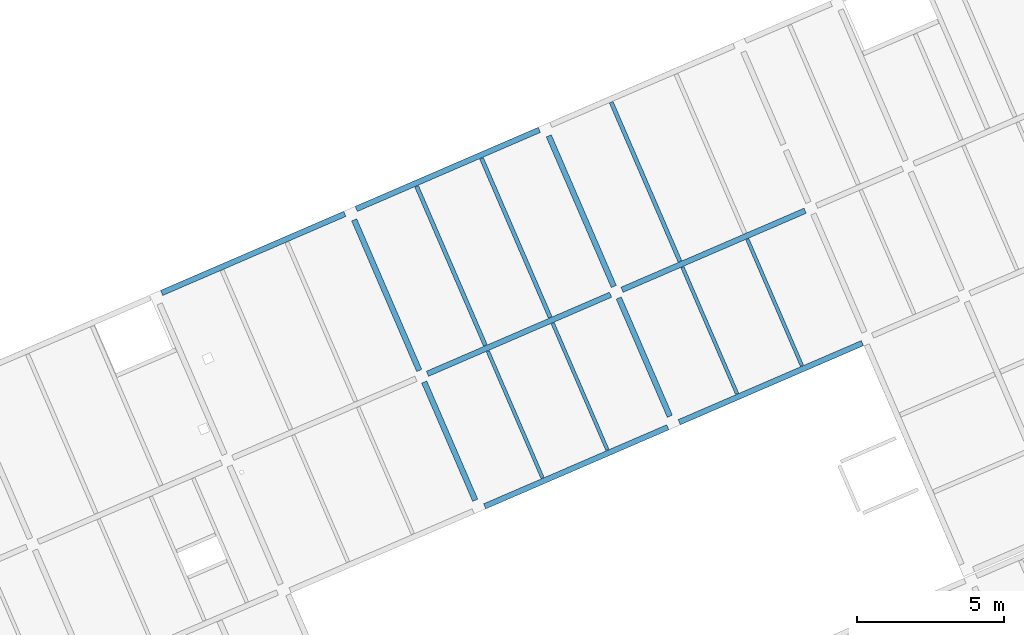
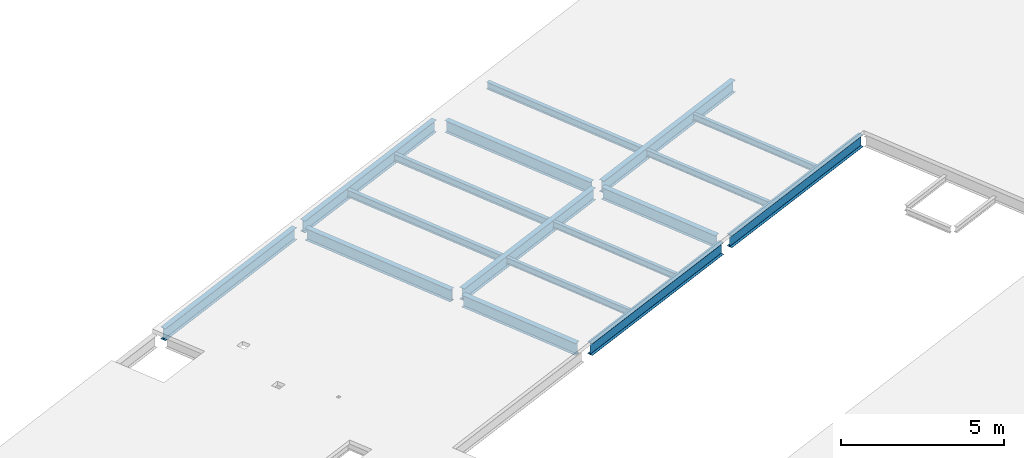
# One storey, part 10 of 15: 17 beams.
"""IFC4 building model written with IfcOpenShell, lengths in metres."""

from ifc_helpers import new_model, entity, si_unit, converted_unit, derived_unit, direction, frame, origin, place, context, subcontext, project, spatial, line, arc, indexed_curve, outline, extrude, source, transform, mapped, material, type_object, type_shapes, element, save


model = new_model("IFC4")

# Units and contexts
model_context = context("Model", 3, precision=1e-05, world=origin(), true_north=direction((6.12323399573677e-17, 1.0)))
body_context = subcontext(model_context, "Body", "Model", "MODEL_VIEW")
ifc_project = project(units=[si_unit("LENGTHUNIT", "METRE"), si_unit("AREAUNIT", "SQUARE_METRE"), si_unit("VOLUMEUNIT", "CUBIC_METRE"), converted_unit("PLANEANGLEUNIT", "DEGREE", entity("IfcPlaneAngleMeasure", 0.0174532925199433), si_unit("PLANEANGLEUNIT", "RADIAN"), dimensions=[0, 0, 0, 0, 0, 0, 0]), si_unit("MASSUNIT", "GRAM", prefix="KILO"), derived_unit("MOMENTOFINERTIAUNIT", [(si_unit("LENGTHUNIT", "METRE"), 4)]), derived_unit("LINEARFORCEUNIT", [(si_unit("MASSUNIT", "GRAM", prefix="KILO"), 1), (si_unit("TIMEUNIT", "SECOND"), -2)]), derived_unit("WARPINGCONSTANTUNIT", [(si_unit("LENGTHUNIT", "METRE"), 6)]), derived_unit("THERMALTRANSMITTANCEUNIT", [(si_unit("MASSUNIT", "GRAM", prefix="KILO"), 1), (si_unit("THERMODYNAMICTEMPERATUREUNIT", "KELVIN"), -1), (si_unit("TIMEUNIT", "SECOND"), -3)]), derived_unit("USERDEFINED", [(si_unit("MASSUNIT", "GRAM", prefix="KILO"), 1), (si_unit("TIMEUNIT", "SECOND"), -2), (si_unit("THERMODYNAMICTEMPERATUREUNIT", "KELVIN"), -1)]), derived_unit("THERMALRESISTANCEUNIT", [(si_unit("MASSUNIT", "GRAM", prefix="KILO"), -1), (si_unit("TIMEUNIT", "SECOND"), 3), (si_unit("THERMODYNAMICTEMPERATUREUNIT", "KELVIN"), 1)])], contexts=[model_context])

# Site, building, storey
site_placement = place(None, origin())
site = spatial("IfcSite", under=ifc_project, at=site_placement, Name="Default", CompositionType="ELEMENT")
building_placement = place(site_placement, frame((12.6613425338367, -82.5732315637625, 317.15), z_axis=(0.0, 0.0, 1.0), x_axis=(-0.396377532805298, 0.918087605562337, 0.0)))
building = spatial("IfcBuilding", under=site, at=building_placement, Name="CESFAM Coyhaique", CompositionType="ELEMENT")
storey_placement = place(building_placement, frame((0.0, 0.0, 8.45000000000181)))
storey = spatial("IfcBuildingStorey", under=building, at=storey_placement, Name="Nivel 3", CompositionType="ELEMENT", Elevation=8.45000000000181)

# Beams
ifc_material = material(Name="Steel, 45-345", Category="Metal")
beam_type_1 = type_object("IfcBeamType", Name="M_W Shapes:W450X190mm", PredefinedType="BEAM", material=ifc_material)
shared_shape_1 = source(origin(), body_context, "Body", "SweptSolid", [
    extrude(outline(indexed_curve([(-0.0950000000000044, -0.225000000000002), (0.0949999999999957, -0.225000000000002), (0.0950000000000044, -0.215350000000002), (0.0105699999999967, -0.215350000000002), (0.00516063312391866, -0.213109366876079), (0.0029200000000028, -0.207700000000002), (0.00291999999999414, 0.207699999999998), (0.00516063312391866, 0.213109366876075), (0.0105699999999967, 0.215349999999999), (0.0949999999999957, 0.215349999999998), (0.0949999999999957, 0.224999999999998), (-0.0950000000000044, 0.224999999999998), (-0.0950000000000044, 0.215349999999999), (-0.0105700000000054, 0.215349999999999), (-0.00516063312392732, 0.213109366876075), (-0.0029200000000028, 0.207699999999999), (-0.0029200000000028, -0.207700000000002), (-0.00516063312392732, -0.213109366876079), (-0.0105699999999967, -0.215350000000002), (-0.0950000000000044, -0.215350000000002)], segments=[line(1, 2, 3, 4), arc(4, 5, 6), line(6, 7), arc(7, 8, 9), line(9, 10, 11, 12, 13, 14), arc(14, 15, 16), line(16, 17), arc(17, 18, 19), line(19, 20, 1)], self_intersect=False)), frame((54.6688534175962, 3.0155504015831, 8.07500000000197), z_axis=(0.0, 1.0, 0.0), x_axis=(-1.0, 0.0, 0.0)), (0.0, 0.0, 1.0), 6.7746),
])
type_shapes(beam_type_1, [shared_shape_1])
beam_1_placement = place(storey_placement, frame((0.0, 0.0, -8.45000000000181)))
element("IfcBeam", 1, at=beam_1_placement, inside=storey, type_object=beam_type_1, Name="M_W Shapes:W450X190mm", ObjectType="M_W Shapes:W450X190mm", PredefinedType="BEAM", context=body_context, shape_type="MappedRepresentation", body=[
    mapped(shared_shape_1, transform((0.0, 0.0, 0.0), scale=1.0)),
])
beam_type_2 = type_object("IfcBeamType", Name="M_W Shapes:W450X190mm", PredefinedType="BEAM", material=ifc_material)
shared_shape_2 = source(origin(), body_context, "Body", "SweptSolid", [
    extrude(outline(indexed_curve([(-0.0950000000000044, -0.225000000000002), (0.0949999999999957, -0.225000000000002), (0.0950000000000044, -0.215350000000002), (0.0105699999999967, -0.215350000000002), (0.00516063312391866, -0.213109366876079), (0.0029200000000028, -0.207700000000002), (0.00291999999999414, 0.207699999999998), (0.00516063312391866, 0.213109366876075), (0.0105699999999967, 0.215349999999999), (0.0949999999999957, 0.215349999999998), (0.0949999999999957, 0.224999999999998), (-0.0950000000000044, 0.224999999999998), (-0.0950000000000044, 0.215349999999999), (-0.0105700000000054, 0.215349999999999), (-0.00516063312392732, 0.213109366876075), (-0.0029200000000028, 0.207699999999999), (-0.0029200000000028, -0.207700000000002), (-0.00516063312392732, -0.213109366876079), (-0.0105699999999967, -0.215350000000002), (-0.0950000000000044, -0.215350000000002)], segments=[line(1, 2, 3, 4), arc(4, 5, 6), line(6, 7), arc(7, 8, 9), line(9, 10, 11, 12, 13, 14), arc(14, 15, 16), line(16, 17), arc(17, 18, 19), line(19, 20, 1)], self_intersect=False)), frame((43.6638534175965, -4.18444959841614, 8.07500000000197), z_axis=(0.0, 1.0, 0.0), x_axis=(-1.0, 0.0, 0.0)), (0.0, 0.0, 1.0), 6.7746),
])
type_shapes(beam_type_2, [shared_shape_2])
beam_2_placement = place(storey_placement, frame((0.0, 0.0, -8.45000000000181)))
element("IfcBeam", 2, at=beam_2_placement, inside=storey, type_object=beam_type_2, Name="M_W Shapes:W450X190mm", ObjectType="M_W Shapes:W450X190mm", PredefinedType="BEAM", context=body_context, shape_type="MappedRepresentation", body=[
    mapped(shared_shape_2, transform((0.0, 0.0, 0.0), scale=1.0)),
])
beam_type_3 = type_object("IfcBeamType", Name="M_W Shapes:W450X190mm", PredefinedType="BEAM", material=ifc_material)
shared_shape_3 = source(origin(), body_context, "Body", "SweptSolid", [
    extrude(outline(indexed_curve([(-0.0949999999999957, -0.225000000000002), (0.0950000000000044, -0.225000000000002), (0.0950000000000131, -0.215350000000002), (0.0105700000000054, -0.215350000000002), (0.00516063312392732, -0.213109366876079), (0.00292000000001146, -0.207700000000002), (0.0029200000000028, 0.207699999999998), (0.00516063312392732, 0.213109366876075), (0.0105700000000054, 0.215349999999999), (0.0950000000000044, 0.215349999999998), (0.0950000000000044, 0.224999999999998), (-0.0949999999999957, 0.224999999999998), (-0.0949999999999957, 0.215349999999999), (-0.0105699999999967, 0.215349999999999), (-0.00516063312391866, 0.213109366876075), (-0.00291999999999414, 0.207699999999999), (-0.00291999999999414, -0.207700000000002), (-0.00516063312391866, -0.213109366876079), (-0.0105699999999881, -0.215350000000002), (-0.0949999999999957, -0.215350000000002)], segments=[line(1, 2, 3, 4), arc(4, 5, 6), line(6, 7), arc(7, 8, 9), line(9, 10, 11, 12, 13, 14), arc(14, 15, 16), line(16, 17), arc(17, 18, 19), line(19, 20, 1)], self_intersect=False)), frame((43.6688534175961, -11.384449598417, 8.07500000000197), z_axis=(0.0, 1.0, 0.0), x_axis=(-1.0, 0.0, 0.0)), (0.0, 0.0, 1.0), 6.7746),
])
type_shapes(beam_type_3, [shared_shape_3])
beam_3_placement = place(storey_placement, frame((0.0, 0.0, -8.45000000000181)))
element("IfcBeam", 3, at=beam_3_placement, inside=storey, type_object=beam_type_3, Name="M_W Shapes:W450X190mm", ObjectType="M_W Shapes:W450X190mm", PredefinedType="BEAM", context=body_context, shape_type="MappedRepresentation", body=[
    mapped(shared_shape_3, transform((0.0, 0.0, 0.0), scale=1.0)),
])
beam_type_4 = type_object("IfcBeamType", Name="M_W Shapes:W450X190mm", PredefinedType="BEAM", material=ifc_material)
shared_shape_4 = source(origin(), body_context, "Body", "SweptSolid", [
    extrude(outline(indexed_curve([(-0.0950000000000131, -0.225000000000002), (0.0949999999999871, -0.225000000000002), (0.0949999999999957, -0.215350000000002), (0.0105699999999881, -0.215350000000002), (0.00516063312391, -0.213109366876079), (0.00291999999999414, -0.207700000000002), (0.00291999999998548, 0.207699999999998), (0.00516063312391, 0.213109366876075), (0.0105699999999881, 0.215349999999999), (0.0949999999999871, 0.215349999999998), (0.0949999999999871, 0.224999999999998), (-0.0950000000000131, 0.224999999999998), (-0.0950000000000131, 0.215349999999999), (-0.0105700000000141, 0.215349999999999), (-0.00516063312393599, 0.213109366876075), (-0.00292000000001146, 0.207699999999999), (-0.00292000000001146, -0.207700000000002), (-0.00516063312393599, -0.213109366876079), (-0.0105700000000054, -0.215350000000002), (-0.0950000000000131, -0.215350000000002)], segments=[line(1, 2, 3, 4), arc(4, 5, 6), line(6, 7), arc(7, 8, 9), line(9, 10, 11, 12, 13, 14), arc(14, 15, 16), line(16, 17), arc(17, 18, 19), line(19, 20, 1)], self_intersect=False)), frame((48.5688534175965, -4.18444959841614, 8.07500000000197), z_axis=(0.0, 1.0, 0.0), x_axis=(-1.0, 0.0, 0.0)), (0.0, 0.0, 1.0), 6.7746),
])
type_shapes(beam_type_4, [shared_shape_4])
beam_4_placement = place(storey_placement, frame((0.0, 0.0, -8.45000000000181)))
element("IfcBeam", 4, at=beam_4_placement, inside=storey, type_object=beam_type_4, Name="M_W Shapes:W450X190mm", ObjectType="M_W Shapes:W450X190mm", PredefinedType="BEAM", context=body_context, shape_type="MappedRepresentation", body=[
    mapped(shared_shape_4, transform((0.0, 0.0, 0.0), scale=1.0)),
])
beam_type_5 = type_object("IfcBeamType", Name="M_W Shapes:W450X190mm", PredefinedType="BEAM", material=ifc_material)
shared_shape_5 = source(origin(), body_context, "Body", "SweptSolid", [
    extrude(outline(indexed_curve([(-0.0950000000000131, -0.225000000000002), (0.0949999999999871, -0.225000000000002), (0.0949999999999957, -0.215350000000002), (0.0105699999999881, -0.215350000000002), (0.00516063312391, -0.213109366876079), (0.00291999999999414, -0.207700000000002), (0.00291999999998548, 0.207699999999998), (0.00516063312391, 0.213109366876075), (0.0105699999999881, 0.215349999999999), (0.0949999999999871, 0.215349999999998), (0.0949999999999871, 0.224999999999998), (-0.0950000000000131, 0.224999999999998), (-0.0950000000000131, 0.215349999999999), (-0.0105700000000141, 0.215349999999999), (-0.00516063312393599, 0.213109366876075), (-0.00292000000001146, 0.207699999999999), (-0.00292000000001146, -0.207700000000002), (-0.00516063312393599, -0.213109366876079), (-0.0105700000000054, -0.215350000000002), (-0.0950000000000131, -0.215350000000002)], segments=[line(1, 2, 3, 4), arc(4, 5, 6), line(6, 7), arc(7, 8, 9), line(9, 10, 11, 12, 13, 14), arc(14, 15, 16), line(16, 17), arc(17, 18, 19), line(19, 20, 1)], self_intersect=False)), frame((48.5688534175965, -11.384449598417, 8.07500000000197), z_axis=(0.0, 1.0, 0.0), x_axis=(-1.0, 0.0, 0.0)), (0.0, 0.0, 1.0), 6.7746),
])
type_shapes(beam_type_5, [shared_shape_5])
beam_5_placement = place(storey_placement, frame((0.0, 0.0, -8.45000000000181)))
element("IfcBeam", 5, at=beam_5_placement, inside=storey, type_object=beam_type_5, Name="M_W Shapes:W450X190mm", ObjectType="M_W Shapes:W450X190mm", PredefinedType="BEAM", context=body_context, shape_type="MappedRepresentation", body=[
    mapped(shared_shape_5, transform((0.0, 0.0, 0.0), scale=1.0)),
])
beam_type_6 = type_object("IfcBeamType", Name="M_W Shapes:W450X190mm", PredefinedType="BEAM", material=ifc_material)
shared_shape_6 = source(origin(), body_context, "Body", "SweptSolid", [
    extrude(outline(indexed_curve([(-0.0950000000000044, -0.225000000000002), (0.0949999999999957, -0.225000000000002), (0.0950000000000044, -0.215350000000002), (0.0105699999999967, -0.215350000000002), (0.00516063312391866, -0.213109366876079), (0.0029200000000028, -0.207700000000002), (0.00291999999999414, 0.207699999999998), (0.00516063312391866, 0.213109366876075), (0.0105699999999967, 0.215349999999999), (0.0949999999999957, 0.215349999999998), (0.0949999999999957, 0.224999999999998), (-0.0950000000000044, 0.224999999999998), (-0.0950000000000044, 0.215349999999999), (-0.0105700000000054, 0.215349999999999), (-0.00516063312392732, 0.213109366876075), (-0.0029200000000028, 0.207699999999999), (-0.0029200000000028, -0.207700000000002), (-0.00516063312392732, -0.213109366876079), (-0.0105699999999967, -0.215350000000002), (-0.0950000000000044, -0.215350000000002)], segments=[line(1, 2, 3, 4), arc(4, 5, 6), line(6, 7), arc(7, 8, 9), line(9, 10, 11, 12, 13, 14), arc(14, 15, 16), line(16, 17), arc(17, 18, 19), line(19, 20, 1)], self_intersect=False)), frame((54.6688534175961, -4.18444959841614, 8.07500000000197), z_axis=(0.0, 1.0, 0.0), x_axis=(-1.0, 0.0, 0.0)), (0.0, 0.0, 1.0), 6.7746),
])
type_shapes(beam_type_6, [shared_shape_6])
beam_6_placement = place(storey_placement, frame((0.0, 0.0, -8.45000000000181)))
element("IfcBeam", 6, at=beam_6_placement, inside=storey, type_object=beam_type_6, Name="M_W Shapes:W450X190mm", ObjectType="M_W Shapes:W450X190mm", PredefinedType="BEAM", context=body_context, shape_type="MappedRepresentation", body=[
    mapped(shared_shape_6, transform((0.0, 0.0, 0.0), scale=1.0)),
])
beam_type_7 = type_object("IfcBeamType", Name="M_W Shapes:W450X190mm", PredefinedType="BEAM", material=ifc_material)
shared_shape_7 = source(origin(), body_context, "Body", "SweptSolid", [
    extrude(outline(indexed_curve([(-0.224999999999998, -0.0950000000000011), (-0.215349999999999, -0.0950000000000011), (-0.215349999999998, -0.0105700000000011), (-0.213109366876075, -0.00516063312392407), (-0.207699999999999, -0.00292000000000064), (0.207700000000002, -0.00292000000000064), (0.213109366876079, -0.00516063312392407), (0.215350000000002, -0.0105700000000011), (0.215350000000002, -0.0950000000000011), (0.225000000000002, -0.0950000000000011), (0.225000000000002, 0.0949999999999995), (0.215350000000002, 0.0949999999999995), (0.215350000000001, 0.0105699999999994), (0.213109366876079, 0.00516063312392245), (0.207700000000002, 0.00291999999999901), (-0.207699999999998, 0.00291999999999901), (-0.213109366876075, 0.00516063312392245), (-0.215349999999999, 0.0105699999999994), (-0.215349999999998, 0.0949999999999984), (-0.224999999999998, 0.094999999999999)], segments=[line(1, 2, 3), arc(3, 4, 5), line(5, 6), arc(6, 7, 8), line(8, 9, 10, 11, 12, 13), arc(13, 14, 15), line(15, 16), arc(16, 17, 18), line(18, 19, 20, 1)], self_intersect=False)), frame((43.9815534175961, -4.39714959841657, 8.07500000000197), z_axis=(1.0, 0.0, 0.0), x_axis=(0.0, 0.0, -1.0)), (0.0, 0.0, 1.0), 4.3746),
])
type_shapes(beam_type_7, [shared_shape_7])
beam_7_placement = place(storey_placement, frame((0.0, 0.0, -8.45000000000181)))
element("IfcBeam", 7, at=beam_7_placement, inside=storey, type_object=beam_type_7, Name="M_W Shapes:W450X190mm", ObjectType="M_W Shapes:W450X190mm", PredefinedType="BEAM", context=body_context, shape_type="MappedRepresentation", body=[
    mapped(shared_shape_7, transform((0.0, 0.0, 0.0), scale=1.0)),
])
beam_type_8 = type_object("IfcBeamType", Name="M_W Shapes:W450X190mm", PredefinedType="BEAM", material=ifc_material)
shared_shape_8 = source(origin(), body_context, "Body", "SweptSolid", [
    extrude(outline(indexed_curve([(-0.224999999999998, -0.0949999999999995), (-0.215349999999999, -0.0949999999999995), (-0.215349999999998, -0.0105699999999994), (-0.213109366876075, -0.00516063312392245), (-0.207699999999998, -0.00291999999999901), (0.207700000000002, -0.00291999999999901), (0.213109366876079, -0.00516063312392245), (0.215350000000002, -0.0105699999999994), (0.215350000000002, -0.0949999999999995), (0.225000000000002, -0.0949999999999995), (0.225000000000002, 0.0950000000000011), (0.215350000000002, 0.0950000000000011), (0.215350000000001, 0.0105700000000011), (0.213109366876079, 0.00516063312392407), (0.207700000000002, 0.00292000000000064), (-0.207699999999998, 0.00292000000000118), (-0.213109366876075, 0.00516063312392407), (-0.215349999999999, 0.0105700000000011), (-0.215349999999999, 0.0950000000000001), (-0.224999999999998, 0.0950000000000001)], segments=[line(1, 2, 3), arc(3, 4, 5), line(5, 6), arc(6, 7, 8), line(8, 9, 10, 11, 12, 13), arc(13, 14, 15), line(15, 16), arc(16, 17, 18), line(18, 19, 20, 1)], self_intersect=False)), frame((48.7815534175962, -4.39714959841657, 8.07500000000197), z_axis=(1.0, 0.0, 0.0), x_axis=(0.0, 0.0, -1.0)), (0.0, 0.0, 1.0), 5.5746),
])
type_shapes(beam_type_8, [shared_shape_8])
beam_8_placement = place(storey_placement, frame((0.0, 0.0, -8.45000000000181)))
element("IfcBeam", 8, at=beam_8_placement, inside=storey, type_object=beam_type_8, Name="M_W Shapes:W450X190mm", ObjectType="M_W Shapes:W450X190mm", PredefinedType="BEAM", context=body_context, shape_type="MappedRepresentation", body=[
    mapped(shared_shape_8, transform((0.0, 0.0, 0.0), scale=1.0)),
])
beam_type_9 = type_object("IfcBeamType", Name="M_W Shapes:W450X190mm", PredefinedType="BEAM", material=ifc_material)
shared_shape_9 = source(origin(), body_context, "Body", "SweptSolid", [
    extrude(outline(indexed_curve([(-0.224999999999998, -0.0950000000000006), (-0.215349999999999, -0.0950000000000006), (-0.215349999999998, -0.0105700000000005), (-0.213109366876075, -0.00516063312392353), (-0.207699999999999, -0.00292000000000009), (0.207700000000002, -0.00292000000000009), (0.213109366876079, -0.00516063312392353), (0.215350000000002, -0.0105700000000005), (0.215350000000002, -0.0950000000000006), (0.225000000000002, -0.0950000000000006), (0.225000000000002, 0.0950000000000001), (0.215350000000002, 0.0950000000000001), (0.215350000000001, 0.01057), (0.213109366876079, 0.00516063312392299), (0.207700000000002, 0.00291999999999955), (-0.207699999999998, 0.00291999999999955), (-0.213109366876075, 0.00516063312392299), (-0.215349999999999, 0.01057), (-0.215349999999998, 0.094999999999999), (-0.224999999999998, 0.0949999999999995)], segments=[line(1, 2, 3), arc(3, 4, 5), line(5, 6), arc(6, 7, 8), line(8, 9, 10, 11, 12, 13), arc(13, 14, 15), line(15, 16), arc(16, 17, 18), line(18, 19, 20, 1)], self_intersect=False)), frame((43.9815534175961, 2.8028504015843, 8.07500000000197), z_axis=(1.0, 0.0, 0.0), x_axis=(0.0, 0.0, -1.0)), (0.0, 0.0, 1.0), 4.3746),
])
type_shapes(beam_type_9, [shared_shape_9])
beam_9_placement = place(storey_placement, frame((0.0, 0.0, -8.45000000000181)))
element("IfcBeam", 9, at=beam_9_placement, inside=storey, type_object=beam_type_9, Name="M_W Shapes:W450X190mm", ObjectType="M_W Shapes:W450X190mm", PredefinedType="BEAM", context=body_context, shape_type="MappedRepresentation", body=[
    mapped(shared_shape_9, transform((0.0, 0.0, 0.0), scale=1.0)),
])
beam_type_10 = type_object("IfcBeamType", Name="M_W Shapes:W450X190mm", PredefinedType="BEAM", material=ifc_material)
shared_shape_10 = source(origin(), body_context, "Body", "SweptSolid", [
    extrude(outline(indexed_curve([(-0.224999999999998, -0.0950000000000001), (-0.215349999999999, -0.0950000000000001), (-0.215349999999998, -0.01057), (-0.213109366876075, -0.00516063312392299), (-0.207699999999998, -0.00291999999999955), (0.207700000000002, -0.00291999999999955), (0.213109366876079, -0.00516063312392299), (0.215350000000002, -0.01057), (0.215350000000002, -0.0950000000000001), (0.225000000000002, -0.0950000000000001), (0.225000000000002, 0.0950000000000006), (0.215350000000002, 0.0950000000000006), (0.215350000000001, 0.0105700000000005), (0.213109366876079, 0.00516063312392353), (0.207700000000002, 0.00292000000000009), (-0.207699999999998, 0.00292000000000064), (-0.213109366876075, 0.00516063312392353), (-0.215349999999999, 0.0105700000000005), (-0.215349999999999, 0.0949999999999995), (-0.224999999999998, 0.0949999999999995)], segments=[line(1, 2, 3), arc(3, 4, 5), line(5, 6), arc(6, 7, 8), line(8, 9, 10, 11, 12, 13), arc(13, 14, 15), line(15, 16), arc(16, 17, 18), line(18, 19, 20, 1)], self_intersect=False)), frame((48.7815534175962, 2.8028504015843, 8.07500000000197), z_axis=(1.0, 0.0, 0.0), x_axis=(0.0, 0.0, -1.0)), (0.0, 0.0, 1.0), 5.5746),
])
type_shapes(beam_type_10, [shared_shape_10])
beam_10_placement = place(storey_placement, frame((0.0, 0.0, -8.45000000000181)))
element("IfcBeam", 10, at=beam_10_placement, inside=storey, type_object=beam_type_10, Name="M_W Shapes:W450X190mm", ObjectType="M_W Shapes:W450X190mm", PredefinedType="BEAM", context=body_context, shape_type="MappedRepresentation", body=[
    mapped(shared_shape_10, transform((0.0, 0.0, 0.0), scale=1.0)),
])
beam_type_11 = type_object("IfcBeamType", Name="M_W Shapes:W240X120mm", PredefinedType="BEAM", material=ifc_material)
shared_shape_11 = source(origin(), body_context, "Body", "SweptSolid", [
    extrude(outline(indexed_curve([(-0.12, -0.0599999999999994), (-0.110350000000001, -0.0599999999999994), (-0.110350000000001, -0.0105699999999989), (-0.108109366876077, -0.00516063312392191), (-0.1027, -0.00291999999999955), (0.102699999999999, -0.00291999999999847), (0.108109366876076, -0.00516063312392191), (0.110349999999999, -0.0105699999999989), (0.110349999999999, -0.0599999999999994), (0.12, -0.0599999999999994), (0.12, 0.0600000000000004), (0.110349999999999, 0.0600000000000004), (0.11035, 0.0105700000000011), (0.108109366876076, 0.00516063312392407), (0.102699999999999, 0.00292000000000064), (-0.1027, 0.00292000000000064), (-0.108109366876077, 0.00516063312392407), (-0.110350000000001, 0.0105700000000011), (-0.110350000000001, 0.0600000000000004), (-0.12, 0.0600000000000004)], segments=[line(1, 2, 3), arc(3, 4, 5), line(5, 6), arc(6, 7, 8), line(8, 9, 10, 11, 12, 13), arc(13, 14, 15), line(15, 16), arc(16, 17, 18), line(18, 19, 20, 1)], self_intersect=False)), frame((43.7765534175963, -9.1972701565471, 8.18000000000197), z_axis=(1.0, 0.0, 0.0), x_axis=(0.0, 0.0, -1.0)), (0.0, 0.0, 1.0), 4.6846),
])
type_shapes(beam_type_11, [shared_shape_11])
beam_11_placement = place(storey_placement, frame((0.0, 0.0, -8.45000000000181)))
element("IfcBeam", 11, at=beam_11_placement, inside=storey, type_object=beam_type_11, Name="M_W Shapes:W240X120mm", ObjectType="M_W Shapes:W240X120mm", PredefinedType="BEAM", context=body_context, shape_type="MappedRepresentation", body=[
    mapped(shared_shape_11, transform((0.0, 0.0, 0.0), scale=1.0)),
])
beam_type_12 = type_object("IfcBeamType", Name="M_W Shapes:W240X120mm", PredefinedType="BEAM", material=ifc_material)
shared_shape_12 = source(origin(), body_context, "Body", "SweptSolid", [
    extrude(outline(indexed_curve([(-0.12, -0.0599999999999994), (-0.110350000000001, -0.0599999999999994), (-0.110350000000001, -0.0105699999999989), (-0.108109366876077, -0.00516063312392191), (-0.1027, -0.00291999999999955), (0.102699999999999, -0.00291999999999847), (0.108109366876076, -0.00516063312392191), (0.110349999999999, -0.0105699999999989), (0.110349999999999, -0.0599999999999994), (0.12, -0.0599999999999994), (0.12, 0.0600000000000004), (0.110349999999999, 0.0600000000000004), (0.11035, 0.0105700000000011), (0.108109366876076, 0.00516063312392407), (0.102699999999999, 0.00292000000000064), (-0.1027, 0.00292000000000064), (-0.108109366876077, 0.00516063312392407), (-0.110350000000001, 0.0105700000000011), (-0.110350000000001, 0.0600000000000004), (-0.12, 0.0600000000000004)], segments=[line(1, 2, 3), arc(3, 4, 5), line(5, 6), arc(6, 7, 8), line(8, 9, 10, 11, 12, 13), arc(13, 14, 15), line(15, 16), arc(16, 17, 18), line(18, 19, 20, 1)], self_intersect=False)), frame((43.7765534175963, -6.79727015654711, 8.18000000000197), z_axis=(1.0, 0.0, 0.0), x_axis=(0.0, 0.0, -1.0)), (0.0, 0.0, 1.0), 4.6846),
])
type_shapes(beam_type_12, [shared_shape_12])
beam_12_placement = place(storey_placement, frame((0.0, 0.0, -8.45000000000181)))
element("IfcBeam", 12, at=beam_12_placement, inside=storey, type_object=beam_type_12, Name="M_W Shapes:W240X120mm", ObjectType="M_W Shapes:W240X120mm", PredefinedType="BEAM", context=body_context, shape_type="MappedRepresentation", body=[
    mapped(shared_shape_12, transform((0.0, 0.0, 0.0), scale=1.0)),
])
beam_type_13 = type_object("IfcBeamType", Name="M_W Shapes:W270X140mm", PredefinedType="BEAM", material=ifc_material)
shared_shape_13 = source(origin(), body_context, "Body", "SweptSolid", [
    extrude(outline(indexed_curve([(-0.135, -0.0699999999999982), (-0.125350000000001, -0.0699999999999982), (-0.125350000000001, -0.0105699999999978), (-0.123109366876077, -0.00516063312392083), (-0.1177, -0.00291999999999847), (0.117699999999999, -0.00291999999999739), (0.123109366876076, -0.00516063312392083), (0.12535, -0.0105699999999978), (0.12535, -0.0699999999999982), (0.135, -0.0699999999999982), (0.135, 0.0700000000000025), (0.12535, 0.0700000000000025), (0.12535, 0.0105700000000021), (0.123109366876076, 0.00516063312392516), (0.117699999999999, 0.00292000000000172), (-0.1177, 0.00292000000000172), (-0.123109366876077, 0.00516063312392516), (-0.125350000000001, 0.0105700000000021), (-0.125350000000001, 0.0700000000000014), (-0.135, 0.0700000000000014)], segments=[line(1, 2, 3), arc(3, 4, 5), line(5, 6), arc(6, 7, 8), line(8, 9, 10, 11, 12, 13), arc(13, 14, 15), line(15, 16), arc(16, 17, 18), line(18, 19, 20, 1)], self_intersect=False)), frame((48.6765534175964, -6.79727015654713, 8.16500000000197), z_axis=(1.0, 0.0, 0.0), x_axis=(0.0, 0.0, -1.0)), (0.0, 0.0, 1.0), 5.88460000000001),
])
type_shapes(beam_type_13, [shared_shape_13])
beam_13_placement = place(storey_placement, frame((0.0, 0.0, -8.45000000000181)))
element("IfcBeam", 13, at=beam_13_placement, inside=storey, type_object=beam_type_13, Name="M_W Shapes:W270X140mm", ObjectType="M_W Shapes:W270X140mm", PredefinedType="BEAM", context=body_context, shape_type="MappedRepresentation", body=[
    mapped(shared_shape_13, transform((0.0, 0.0, 0.0), scale=1.0)),
])
beam_type_14 = type_object("IfcBeamType", Name="M_W Shapes:W240X120mm", PredefinedType="BEAM", material=ifc_material)
shared_shape_14 = source(origin(), body_context, "Body", "SweptSolid", [
    extrude(outline(indexed_curve([(-0.12, -0.0600000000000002), (-0.110350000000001, -0.0600000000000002), (-0.110350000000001, -0.01057), (-0.108109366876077, -0.00516063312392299), (-0.1027, -0.00292000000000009), (0.102699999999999, -0.00292000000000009), (0.108109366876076, -0.00516063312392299), (0.110349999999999, -0.0105700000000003), (0.11035, -0.0600000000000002), (0.12, -0.0600000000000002), (0.12, 0.0600000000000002), (0.110349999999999, 0.0599999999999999), (0.11035, 0.01057), (0.108109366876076, 0.00516063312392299), (0.102699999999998, 0.00292000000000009), (-0.1027, 0.00292000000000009), (-0.108109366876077, 0.00516063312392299), (-0.110350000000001, 0.01057), (-0.11035, 0.0599999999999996), (-0.12, 0.0599999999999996)], segments=[line(1, 2, 3), arc(3, 4, 5), line(5, 6), arc(6, 7, 8), line(8, 9, 10, 11, 12, 13), arc(13, 14, 15), line(15, 16), arc(16, 17, 18), line(18, 19, 20, 1)], self_intersect=False)), frame((43.7715534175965, -1.99727015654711, 8.18000000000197), z_axis=(1.0, 0.0, 0.0), x_axis=(0.0, 0.0, -1.0)), (0.0, 0.0, 1.0), 4.6896),
])
type_shapes(beam_type_14, [shared_shape_14])
beam_14_placement = place(storey_placement, frame((0.0, 0.0, -8.45000000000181)))
element("IfcBeam", 14, at=beam_14_placement, inside=storey, type_object=beam_type_14, Name="M_W Shapes:W240X120mm", ObjectType="M_W Shapes:W240X120mm", PredefinedType="BEAM", context=body_context, shape_type="MappedRepresentation", body=[
    mapped(shared_shape_14, transform((0.0, 0.0, 0.0), scale=1.0)),
])
beam_type_15 = type_object("IfcBeamType", Name="M_W Shapes:W270X140mm", PredefinedType="BEAM", material=ifc_material)
shared_shape_15 = source(origin(), body_context, "Body", "SweptSolid", [
    extrude(outline(indexed_curve([(-0.134999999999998, -0.0700000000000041), (-0.125349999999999, -0.0700000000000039), (-0.12535, -0.0105700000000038), (-0.123109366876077, -0.00516063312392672), (-0.1177, -0.00292000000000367), (0.117699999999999, -0.00291999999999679), (0.123109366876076, -0.00516063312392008), (0.12535, -0.0105699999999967), (0.125350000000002, -0.0699999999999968), (0.135000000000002, -0.0699999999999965), (0.134999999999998, 0.0700000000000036), (0.125349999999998, 0.0700000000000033), (0.125349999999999, 0.0105700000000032), (0.123109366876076, 0.00516063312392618), (0.117699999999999, 0.00292000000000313), (-0.1177, 0.00291999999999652), (-0.123109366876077, 0.00516063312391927), (-0.125350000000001, 0.0105699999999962), (-0.125350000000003, 0.0699999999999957), (-0.135000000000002, 0.0699999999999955)], segments=[line(1, 2, 3), arc(3, 4, 5), line(5, 6), arc(6, 7, 8), line(8, 9, 10, 11, 12, 13), arc(13, 14, 15), line(15, 16), arc(16, 17, 18), line(18, 19, 20, 1)], self_intersect=False)), frame((48.6765534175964, -1.99727015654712, 8.16500000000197), z_axis=(1.0, 0.0, 0.0), x_axis=(0.0, 0.0, -1.0)), (0.0, 0.0, 1.0), 5.88460000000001),
])
type_shapes(beam_type_15, [shared_shape_15])
beam_15_placement = place(storey_placement, frame((0.0, 0.0, -8.45000000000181)))
element("IfcBeam", 15, at=beam_15_placement, inside=storey, type_object=beam_type_15, Name="M_W Shapes:W270X140mm", ObjectType="M_W Shapes:W270X140mm", PredefinedType="BEAM", context=body_context, shape_type="MappedRepresentation", body=[
    mapped(shared_shape_15, transform((0.0, 0.0, 0.0), scale=1.0)),
])
beam_type_16 = type_object("IfcBeamType", Name="M_W Shapes:W240X120mm", PredefinedType="BEAM", material=ifc_material)
shared_shape_16 = source(origin(), body_context, "Body", "SweptSolid", [
    extrude(outline(indexed_curve([(-0.119999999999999, -0.0600000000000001), (-0.11035, -0.06), (-0.110349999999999, -0.01057), (-0.108109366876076, -0.00516063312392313), (-0.102699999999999, -0.00291999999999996), (0.1027, -0.00291999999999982), (0.108109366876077, -0.00516063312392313), (0.11035, -0.01057), (0.110350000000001, -0.0600000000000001), (0.120000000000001, -0.06), (0.120000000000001, 0.0600000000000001), (0.11035, 0.0600000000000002), (0.11035, 0.0105700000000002), (0.108109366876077, 0.00516063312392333), (0.102699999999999, 0.00292000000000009), (-0.102699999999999, 0.00292000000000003), (-0.108109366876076, 0.00516063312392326), (-0.11035, 0.0105700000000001), (-0.110349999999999, 0.0599999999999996), (-0.119999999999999, 0.0599999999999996)], segments=[line(1, 2, 3), arc(3, 4, 5), line(5, 6), arc(6, 7, 8), line(8, 9, 10, 11, 12, 13), arc(13, 14, 15), line(15, 16), arc(16, 17, 18), line(18, 19, 20, 1)], self_intersect=False)), frame((43.7715534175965, 0.402729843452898, 8.18000000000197), z_axis=(1.0, 0.0, 0.0), x_axis=(0.0, 0.0, -1.0)), (0.0, 0.0, 1.0), 4.6896),
])
type_shapes(beam_type_16, [shared_shape_16])
beam_16_placement = place(storey_placement, frame((0.0, 0.0, -8.45000000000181)))
element("IfcBeam", 16, at=beam_16_placement, inside=storey, type_object=beam_type_16, Name="M_W Shapes:W240X120mm", ObjectType="M_W Shapes:W240X120mm", PredefinedType="BEAM", context=body_context, shape_type="MappedRepresentation", body=[
    mapped(shared_shape_16, transform((0.0, 0.0, 0.0), scale=1.0)),
])
beam_type_17 = type_object("IfcBeamType", Name="M_W Shapes:W270X140mm", PredefinedType="BEAM", material=ifc_material)
shared_shape_17 = source(origin(), body_context, "Body", "SweptSolid", [
    extrude(outline(indexed_curve([(-0.135, -0.0699999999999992), (-0.125350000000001, -0.0699999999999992), (-0.12535, -0.0105699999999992), (-0.123109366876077, -0.0051606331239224), (-0.1177, -0.00291999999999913), (0.117699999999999, -0.00292000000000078), (0.123109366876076, -0.00516063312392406), (0.12535, -0.0105700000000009), (0.125349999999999, -0.070000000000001), (0.134999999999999, -0.0700000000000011), (0.135, 0.0699999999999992), (0.12535, 0.0699999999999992), (0.125349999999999, 0.0105699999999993), (0.123109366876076, 0.00516063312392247), (0.117699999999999, 0.00291999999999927), (-0.1177, 0.00292000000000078), (-0.123109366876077, 0.00516063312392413), (-0.125350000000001, 0.010570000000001), (-0.12535, 0.0700000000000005), (-0.134999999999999, 0.0700000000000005)], segments=[line(1, 2, 3), arc(3, 4, 5), line(5, 6), arc(6, 7, 8), line(8, 9, 10, 11, 12, 13), arc(13, 14, 15), line(15, 16), arc(16, 17, 18), line(18, 19, 20, 1)], self_intersect=False)), frame((48.6765534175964, 0.402729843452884, 8.16500000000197), z_axis=(1.0, 0.0, 0.0), x_axis=(0.0, 0.0, -1.0)), (0.0, 0.0, 1.0), 5.88460000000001),
])
type_shapes(beam_type_17, [shared_shape_17])
beam_17_placement = place(storey_placement, frame((0.0, 0.0, -8.45000000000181)))
element("IfcBeam", 17, at=beam_17_placement, inside=storey, type_object=beam_type_17, Name="M_W Shapes:W270X140mm", ObjectType="M_W Shapes:W270X140mm", PredefinedType="BEAM", context=body_context, shape_type="MappedRepresentation", body=[
    mapped(shared_shape_17, transform((0.0, 0.0, 0.0), scale=1.0)),
])

save(model, "model.ifc")
